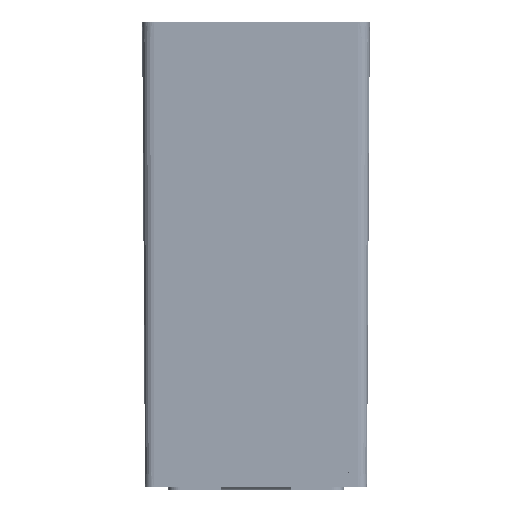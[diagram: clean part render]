
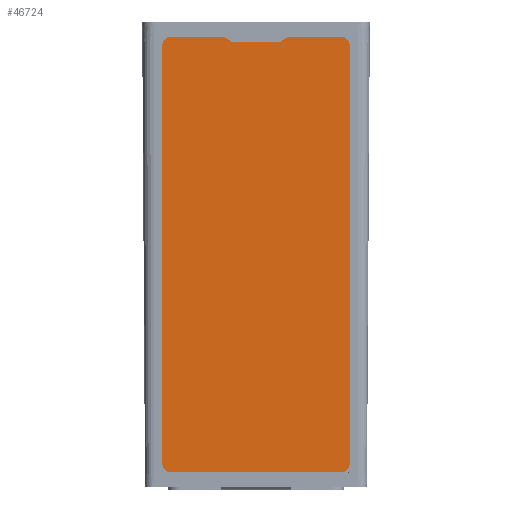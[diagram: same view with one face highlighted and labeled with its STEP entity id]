
A CAD part, left-side view. The second image highlights one B-rep face of the part: STEP entity #46724.
In plain terms, the highlighted planar face has unit normal (-1, 0, 0) as drawn and (0, 0, -1) by its records, which use the part's own axes.
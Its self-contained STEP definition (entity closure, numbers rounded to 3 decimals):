
#5851=PLANE('',#50288);
#6629=FACE_OUTER_BOUND('',#9650,.T.);
#9650=EDGE_LOOP('',(#32700,#32701,#32702,#32703,#32704,#32705,#32706,#32707,
#32708,#32709,#32710,#32711,#32712,#32713,#32714,#32715));
#12893=LINE('',#69566,#14925);
#12896=LINE('',#69572,#14928);
#12897=LINE('',#69576,#14929);
#12898=LINE('',#69580,#14930);
#12899=LINE('',#69584,#14931);
#12900=LINE('',#69588,#14932);
#12901=LINE('',#69592,#14933);
#12902=LINE('',#69596,#14934);
#14925=VECTOR('',#56676,10.);
#14928=VECTOR('',#56681,10.);
#14929=VECTOR('',#56684,10.);
#14930=VECTOR('',#56687,10.);
#14931=VECTOR('',#56690,10.);
#14932=VECTOR('',#56693,10.);
#14933=VECTOR('',#56696,10.);
#14934=VECTOR('',#56699,10.);
#16649=CIRCLE('',#50285,1.);
#16651=CIRCLE('',#50289,1.);
#16652=CIRCLE('',#50290,1.);
#16653=CIRCLE('',#50291,1.);
#16654=CIRCLE('',#50292,1.5);
#16655=CIRCLE('',#50293,1.5);
#16656=CIRCLE('',#50294,1.5);
#16657=CIRCLE('',#50295,1.5);
#19609=VERTEX_POINT('',#69556);
#19610=VERTEX_POINT('',#69557);
#19613=VERTEX_POINT('',#69565);
#19615=VERTEX_POINT('',#69571);
#19616=VERTEX_POINT('',#69573);
#19617=VERTEX_POINT('',#69575);
#19618=VERTEX_POINT('',#69577);
#19619=VERTEX_POINT('',#69579);
#19620=VERTEX_POINT('',#69581);
#19621=VERTEX_POINT('',#69583);
#19622=VERTEX_POINT('',#69585);
#19623=VERTEX_POINT('',#69587);
#19624=VERTEX_POINT('',#69589);
#19625=VERTEX_POINT('',#69591);
#19626=VERTEX_POINT('',#69593);
#19627=VERTEX_POINT('',#69595);
#24423=EDGE_CURVE('',#19609,#19610,#16649,.T.);
#24427=EDGE_CURVE('',#19610,#19613,#12893,.T.);
#24430=EDGE_CURVE('',#19609,#19615,#12896,.T.);
#24431=EDGE_CURVE('',#19616,#19615,#16651,.T.);
#24432=EDGE_CURVE('',#19616,#19617,#12897,.T.);
#24433=EDGE_CURVE('',#19618,#19617,#16652,.T.);
#24434=EDGE_CURVE('',#19618,#19619,#12898,.T.);
#24435=EDGE_CURVE('',#19620,#19619,#16653,.T.);
#24436=EDGE_CURVE('',#19621,#19620,#12899,.T.);
#24437=EDGE_CURVE('',#19622,#19621,#16654,.T.);
#24438=EDGE_CURVE('',#19623,#19622,#12900,.T.);
#24439=EDGE_CURVE('',#19624,#19623,#16655,.T.);
#24440=EDGE_CURVE('',#19625,#19624,#12901,.T.);
#24441=EDGE_CURVE('',#19626,#19625,#16656,.T.);
#24442=EDGE_CURVE('',#19627,#19626,#12902,.T.);
#24443=EDGE_CURVE('',#19613,#19627,#16657,.T.);
#32700=ORIENTED_EDGE('',*,*,#24423,.F.);
#32701=ORIENTED_EDGE('',*,*,#24430,.T.);
#32702=ORIENTED_EDGE('',*,*,#24431,.F.);
#32703=ORIENTED_EDGE('',*,*,#24432,.T.);
#32704=ORIENTED_EDGE('',*,*,#24433,.F.);
#32705=ORIENTED_EDGE('',*,*,#24434,.T.);
#32706=ORIENTED_EDGE('',*,*,#24435,.F.);
#32707=ORIENTED_EDGE('',*,*,#24436,.F.);
#32708=ORIENTED_EDGE('',*,*,#24437,.F.);
#32709=ORIENTED_EDGE('',*,*,#24438,.F.);
#32710=ORIENTED_EDGE('',*,*,#24439,.F.);
#32711=ORIENTED_EDGE('',*,*,#24440,.F.);
#32712=ORIENTED_EDGE('',*,*,#24441,.F.);
#32713=ORIENTED_EDGE('',*,*,#24442,.F.);
#32714=ORIENTED_EDGE('',*,*,#24443,.F.);
#32715=ORIENTED_EDGE('',*,*,#24427,.F.);
#46724=ADVANCED_FACE('',(#6629),#5851,.F.);
#50285=AXIS2_PLACEMENT_3D('',#69558,#56668,#56669);
#50288=AXIS2_PLACEMENT_3D('',#69570,#56679,#56680);
#50289=AXIS2_PLACEMENT_3D('',#69574,#56682,#56683);
#50290=AXIS2_PLACEMENT_3D('',#69578,#56685,#56686);
#50291=AXIS2_PLACEMENT_3D('',#69582,#56688,#56689);
#50292=AXIS2_PLACEMENT_3D('',#69586,#56691,#56692);
#50293=AXIS2_PLACEMENT_3D('',#69590,#56694,#56695);
#50294=AXIS2_PLACEMENT_3D('',#69594,#56697,#56698);
#50295=AXIS2_PLACEMENT_3D('',#69597,#56700,#56701);
#56668=DIRECTION('center_axis',(0.,0.,1.));
#56669=DIRECTION('ref_axis',(-0.29,-0.957,0.));
#56676=DIRECTION('',(1.,0.,0.));
#56679=DIRECTION('center_axis',(0.,0.,1.));
#56680=DIRECTION('ref_axis',(1.,0.,0.));
#56681=DIRECTION('',(-0.832,0.555,0.));
#56682=DIRECTION('center_axis',(0.,0.,-1.));
#56683=DIRECTION('ref_axis',(0.29,0.957,0.));
#56684=DIRECTION('',(-1.,0.,0.));
#56685=DIRECTION('center_axis',(0.,0.,-1.));
#56686=DIRECTION('ref_axis',(-0.29,0.957,0.));
#56687=DIRECTION('',(-0.832,-0.555,0.));
#56688=DIRECTION('center_axis',(0.,0.,1.));
#56689=DIRECTION('ref_axis',(0.29,-0.957,0.));
#56690=DIRECTION('',(1.,0.,0.));
#56691=DIRECTION('center_axis',(0.,0.,1.));
#56692=DIRECTION('ref_axis',(-1.,0.,0.));
#56693=DIRECTION('',(0.,-1.,0.));
#56694=DIRECTION('center_axis',(0.,0.,1.));
#56695=DIRECTION('ref_axis',(0.,1.,0.));
#56696=DIRECTION('',(-1.,0.,0.));
#56697=DIRECTION('center_axis',(0.,0.,1.));
#56698=DIRECTION('ref_axis',(1.,0.,0.));
#56699=DIRECTION('',(0.,1.,0.));
#56700=DIRECTION('center_axis',(0.,0.,1.));
#56701=DIRECTION('ref_axis',(0.,-1.,0.));
#69556=CARTESIAN_POINT('',(5.248,-37.082,0.));
#69557=CARTESIAN_POINT('',(5.803,-37.25,0.));
#69558=CARTESIAN_POINT('Origin',(5.803,-36.25,0.));
#69565=CARTESIAN_POINT('',(14.5,-37.25,0.));
#69566=CARTESIAN_POINT('',(-14.5,-37.25,0.));
#69570=CARTESIAN_POINT('Origin',(0.,0.,
0.));
#69571=CARTESIAN_POINT('',(4.252,-36.418,0.));
#69572=CARTESIAN_POINT('',(-5.75,-29.75,0.));
#69573=CARTESIAN_POINT('',(3.697,-36.25,0.));
#69574=CARTESIAN_POINT('Origin',(3.697,-37.25,0.));
#69575=CARTESIAN_POINT('',(-3.697,-36.25,0.));
#69576=CARTESIAN_POINT('',(-2.,-36.25,0.));
#69577=CARTESIAN_POINT('',(-4.252,-36.418,0.));
#69578=CARTESIAN_POINT('Origin',(-3.697,-37.25,0.));
#69579=CARTESIAN_POINT('',(-5.248,-37.082,0.));
#69580=CARTESIAN_POINT('',(5.,-30.25,0.));
#69581=CARTESIAN_POINT('',(-5.803,-37.25,0.));
#69582=CARTESIAN_POINT('Origin',(-5.803,-36.25,0.));
#69583=CARTESIAN_POINT('',(-14.5,-37.25,0.));
#69584=CARTESIAN_POINT('',(-14.5,-37.25,0.));
#69585=CARTESIAN_POINT('',(-16.,-35.75,0.));
#69586=CARTESIAN_POINT('Origin',(-14.5,-35.75,0.));
#69587=CARTESIAN_POINT('',(-16.,35.75,0.));
#69588=CARTESIAN_POINT('',(-16.,35.75,0.));
#69589=CARTESIAN_POINT('',(-14.5,37.25,0.));
#69590=CARTESIAN_POINT('Origin',(-14.5,35.75,0.));
#69591=CARTESIAN_POINT('',(14.5,37.25,0.));
#69592=CARTESIAN_POINT('',(14.5,37.25,0.));
#69593=CARTESIAN_POINT('',(16.,35.75,0.));
#69594=CARTESIAN_POINT('Origin',(14.5,35.75,0.));
#69595=CARTESIAN_POINT('',(16.,-35.75,0.));
#69596=CARTESIAN_POINT('',(16.,-35.75,0.));
#69597=CARTESIAN_POINT('Origin',(14.5,-35.75,0.));
